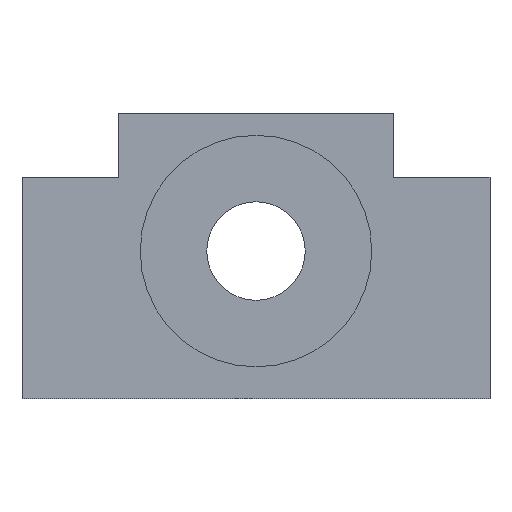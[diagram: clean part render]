
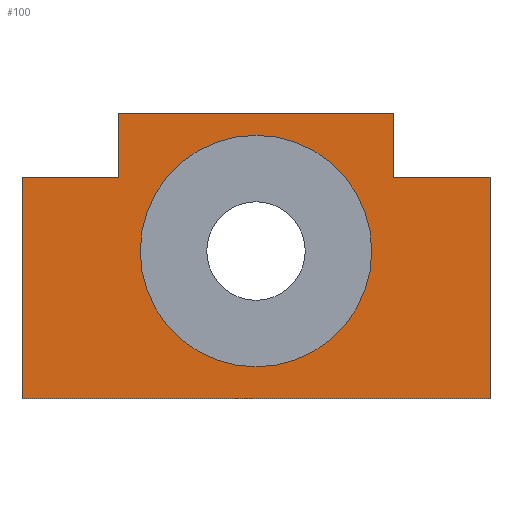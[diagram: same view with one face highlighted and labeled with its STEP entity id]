
A CAD part, left-side view. The second image highlights one B-rep face of the part: STEP entity #100.
In plain terms, the highlighted planar face has unit normal (-1, 0, 0).
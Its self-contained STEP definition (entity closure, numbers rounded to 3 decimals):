
#100=ADVANCED_FACE('',(#155,#156),#117,.F.);
#117=PLANE('',#423);
#129=CIRCLE('',#422,23.5);
#155=FACE_BOUND('',#193,.T.);
#156=FACE_BOUND('',#194,.T.);
#193=EDGE_LOOP('',(#262,#263,#264,#265,#266,#267,#268,#269));
#194=EDGE_LOOP('',(#270));
#262=ORIENTED_EDGE('',*,*,#337,.F.);
#263=ORIENTED_EDGE('',*,*,#335,.F.);
#264=ORIENTED_EDGE('',*,*,#332,.F.);
#265=ORIENTED_EDGE('',*,*,#330,.F.);
#266=ORIENTED_EDGE('',*,*,#328,.F.);
#267=ORIENTED_EDGE('',*,*,#326,.F.);
#268=ORIENTED_EDGE('',*,*,#323,.F.);
#269=ORIENTED_EDGE('',*,*,#321,.F.);
#270=ORIENTED_EDGE('',*,*,#344,.T.);
#290=VERTEX_POINT('',#556);
#291=VERTEX_POINT('',#558);
#292=VERTEX_POINT('',#562);
#294=VERTEX_POINT('',#568);
#295=VERTEX_POINT('',#572);
#296=VERTEX_POINT('',#576);
#297=VERTEX_POINT('',#580);
#299=VERTEX_POINT('',#586);
#306=VERTEX_POINT('',#610);
#321=EDGE_CURVE('LINE',#290,#291,#358,.T.);
#323=EDGE_CURVE('LINE',#291,#292,#360,.T.);
#326=EDGE_CURVE('LINE',#292,#294,#362,.T.);
#328=EDGE_CURVE('LINE',#294,#295,#364,.T.);
#330=EDGE_CURVE('LINE',#295,#296,#366,.T.);
#332=EDGE_CURVE('LINE',#296,#297,#368,.T.);
#335=EDGE_CURVE('LINE',#297,#299,#370,.T.);
#337=EDGE_CURVE('LINE',#299,#290,#372,.T.);
#344=EDGE_CURVE('',#306,#306,#129,.T.);
#358=LINE('',#557,#382);
#360=LINE('',#561,#384);
#362=LINE('',#567,#386);
#364=LINE('',#571,#388);
#366=LINE('',#575,#390);
#368=LINE('',#579,#392);
#370=LINE('',#585,#394);
#372=LINE('',#589,#396);
#382=VECTOR('',#450,1.);
#384=VECTOR('',#454,1.);
#386=VECTOR('',#460,1.);
#388=VECTOR('',#464,1.);
#390=VECTOR('',#468,1.);
#392=VECTOR('',#472,1.);
#394=VECTOR('',#478,1.);
#396=VECTOR('',#482,1.);
#422=AXIS2_PLACEMENT_3D('',#609,#509,#510);
#423=AXIS2_PLACEMENT_3D('',#611,#511,#512);
#450=DIRECTION('',(0.,0.,1.));
#454=DIRECTION('',(0.,-1.,0.));
#460=DIRECTION('',(0.,0.,1.));
#464=DIRECTION('',(0.,-1.,0.));
#468=DIRECTION('',(0.,0.,-1.));
#472=DIRECTION('',(0.,-1.,0.));
#478=DIRECTION('',(0.,0.,-1.));
#482=DIRECTION('',(0.,1.,0.));
#509=DIRECTION('',(1.,0.,0.));
#510=DIRECTION('',(0.,0.,-1.));
#511=DIRECTION('',(1.,0.,0.));
#512=DIRECTION('',(0.,-1.,0.));
#556=CARTESIAN_POINT('',(-13.,47.5,0.));
#557=CARTESIAN_POINT('',(-13.,47.5,22.5));
#558=CARTESIAN_POINT('',(-13.,47.5,45.));
#561=CARTESIAN_POINT('',(-13.,37.75,45.));
#562=CARTESIAN_POINT('',(-13.,28.,45.));
#567=CARTESIAN_POINT('',(-13.,28.,51.5));
#568=CARTESIAN_POINT('',(-13.,28.,58.));
#571=CARTESIAN_POINT('',(-13.,0.,58.));
#572=CARTESIAN_POINT('',(-13.,-28.,58.));
#575=CARTESIAN_POINT('',(-13.,-28.,51.5));
#576=CARTESIAN_POINT('',(-13.,-28.,45.));
#579=CARTESIAN_POINT('',(-13.,-37.75,45.));
#580=CARTESIAN_POINT('',(-13.,-47.5,45.));
#585=CARTESIAN_POINT('',(-13.,-47.5,22.5));
#586=CARTESIAN_POINT('',(-13.,-47.5,0.));
#589=CARTESIAN_POINT('',(-13.,0.,0.));
#609=CARTESIAN_POINT('',(-13.,0.,30.));
#610=CARTESIAN_POINT('',(-13.,0.,6.5));
#611=CARTESIAN_POINT('',(-13.,0.,0.));
